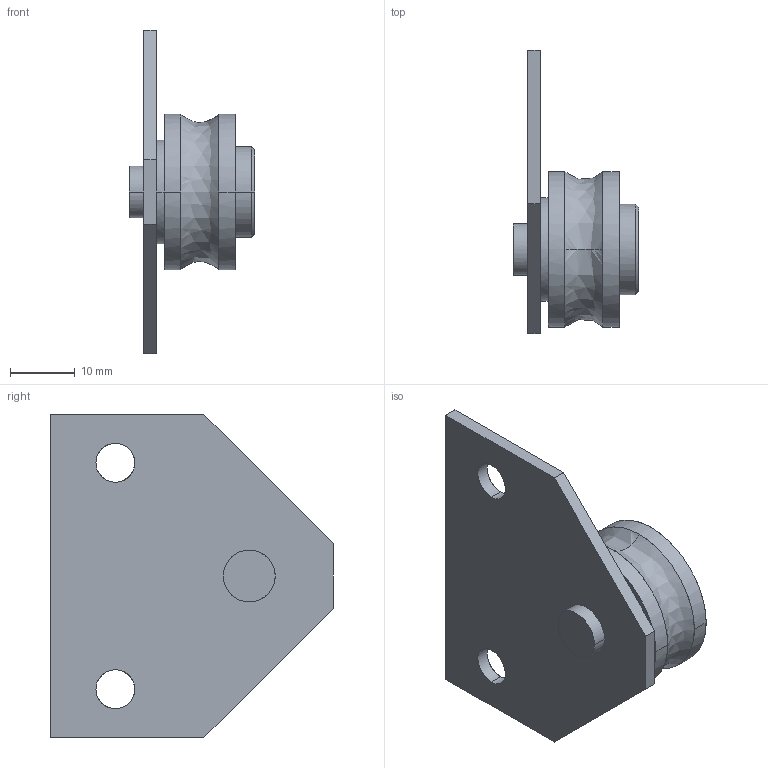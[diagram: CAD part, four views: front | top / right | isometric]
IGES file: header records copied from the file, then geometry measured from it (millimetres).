
Global section: file name: No Iges File Name specified; native system: AutoDesk Inventor R11.0; preprocessor: AutoDesk Inventor Iges Exporter R11.0; author: No Author specified; organization: No Organization specified; date: 20190511.111207; units: millimetre
Bounding box: 19.4 x 43.7 x 50 mm (x, y, z)
Surface area: 5847.3 mm2 (no closed solid volume)
Topology: 0 solids, 0 shells, 33 faces, 216 edges, 216 vertices
Faces by surface type: bspline 33
